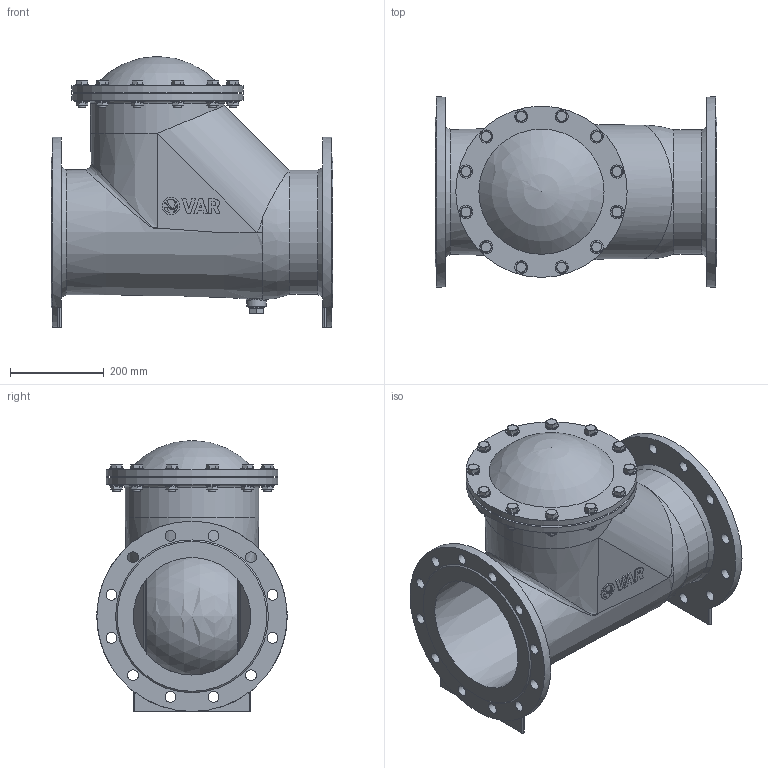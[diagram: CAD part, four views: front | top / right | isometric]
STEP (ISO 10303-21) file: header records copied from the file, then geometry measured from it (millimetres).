
FILE_DESCRIPTION(('STEP AP203'), '1');
FILE_NAME('Øàðîâîé îáðàòíûé êëàïàí VAG KRV', '', ('UNSPECIFIED'), ('UNSPECIFIED'), 'C3D Converter', 'C3D Toolkit', '');
FILE_SCHEMA(('CONFIG_CONTROL_DESIGN'));
Length unit declared in the file: millimetre
Assembly tree (54 placements, depth 2):
  (unnamed)
    (unnamed)
    (unnamed)
    (unnamed)
    (unnamed)
    (unnamed)
    (unnamed)  x12
    (unnamed)  x12
    (unnamed)  x12
    (unnamed)  x12
    (unnamed)
Bounding box: 600 x 405 x 576.5 mm (x, y, z)
Volume: 20701348 mm3; surface area: 2595398.1 mm2
Topology: 55 solids, 56 shells, 828 faces, 2054 edges, 1396 vertices
Faces by surface type: plane 418, cylinder 149, extrusion 136, cone 87, torus 16, bspline 13, sphere 9
Full cylindrical faces by diameter (mm): 14.376 x12, 16 x12, 17 x24, 18 x24, 20 x2, 21 x1, 23 x24, 28 x12, 28.19 x1, 30 x12, 34 x1, 37.005 x1, 41 x1, 250 x1, 264 x1, 271 x1, 285 x1, 364.5 x2, 405 x2
Entity records: 23261 total; most frequent: CARTESIAN_POINT 9150, ORIENTED_EDGE 2146, DIRECTION 1778, EDGE_CURVE 1073, VERTEX_POINT 762, EDGE_LOOP 679, VECTOR 640, AXIS2_PLACEMENT_3D 569
